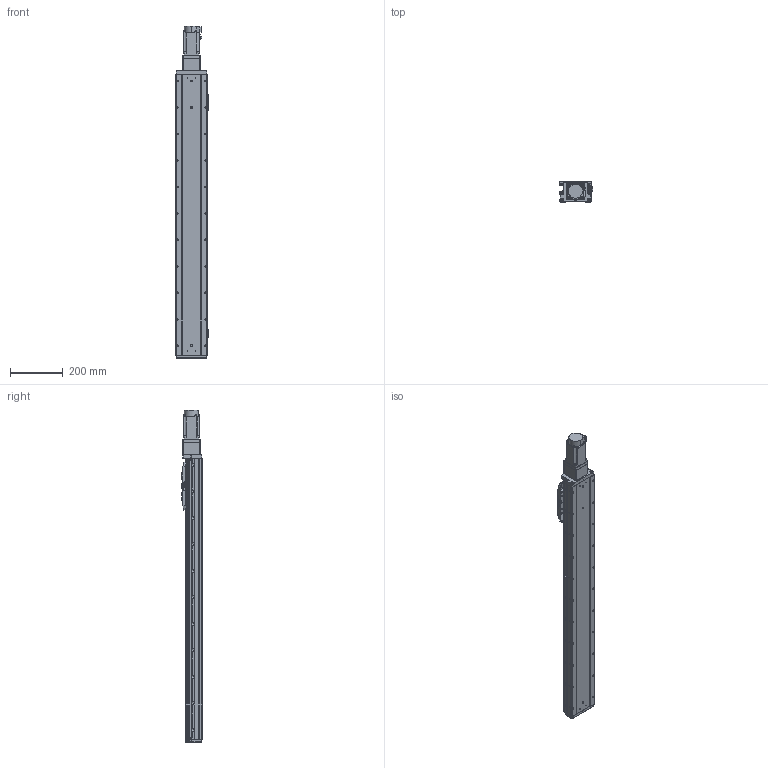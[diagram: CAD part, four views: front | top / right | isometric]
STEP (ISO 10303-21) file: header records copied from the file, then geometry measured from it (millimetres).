
FILE_DESCRIPTION (( 'STEP AP203' ), '1' );
FILE_NAME ('GTH12-850-BC-M40-C4.step', '2022-09-23T01:16:10', ( '微软用户' ), ( '微软中国' ), 'SwSTEP 2.0', 'SolidWorks 2020', '' );
FILE_SCHEMA (( 'CONFIG_CONTROL_DESIGN' ));
Length unit declared in the file: millimetre
Products named in the file (19): GTH120-003; GTH80-022; CTHA86-013; GTH120-006; GTH80-028; CTHA86-027; GTH120-004; GTH50-023; hg-kn43j_-s100_; GTH120-013; GTH50-024; GTH12-850-BC-M40-C4; GBT 70.1-M3℅6; GBT96.1-2002 3×0.8; GBT 70.1-M5×16; BTH-M3X5X6; GTH120-001_850; GBT 70.3-M3℅8; CTHA86-006-1_CTHA86-006-2
Assembly tree (62 placements, depth 2):
  GTH12-850-BC-M40-C4
    GTH120-001_850
    GTH120-003
    GTH120-006
    GTH120-004
    GTH120-013
    GBT 70.1-M3℅6  x14
    GBT 70.1-M5×16  x10
    GBT 70.3-M3℅8  x6
    GTH80-022
    GTH80-028  x2
    GTH50-023  x3
    GTH50-024  x3
    GBT96.1-2002 3×0.8  x6
    BTH-M3X5X6  x8
    CTHA86-006-1_CTHA86-006-2
    CTHA86-013
    CTHA86-027
    hg-kn43j_-s100_
Bounding box: 125.7 x 76 x 1253.7 mm (x, y, z)
Volume: 7985800.2 mm3; surface area: 698943.4 mm2
Topology: 64 solids, 64 shells, 2510 faces, 5835 edges, 3557 vertices
Faces by surface type: plane 1272, cylinder 721, cone 339, torus 170, sphere 8
Entity records: 45728 total; most frequent: DIRECTION 7661, CARTESIAN_POINT 7350, ORIENTED_EDGE 7052, EDGE_CURVE 3526, AXIS2_PLACEMENT_3D 2677, VECTOR 2307, LINE 2307, VERTEX_POINT 2216
